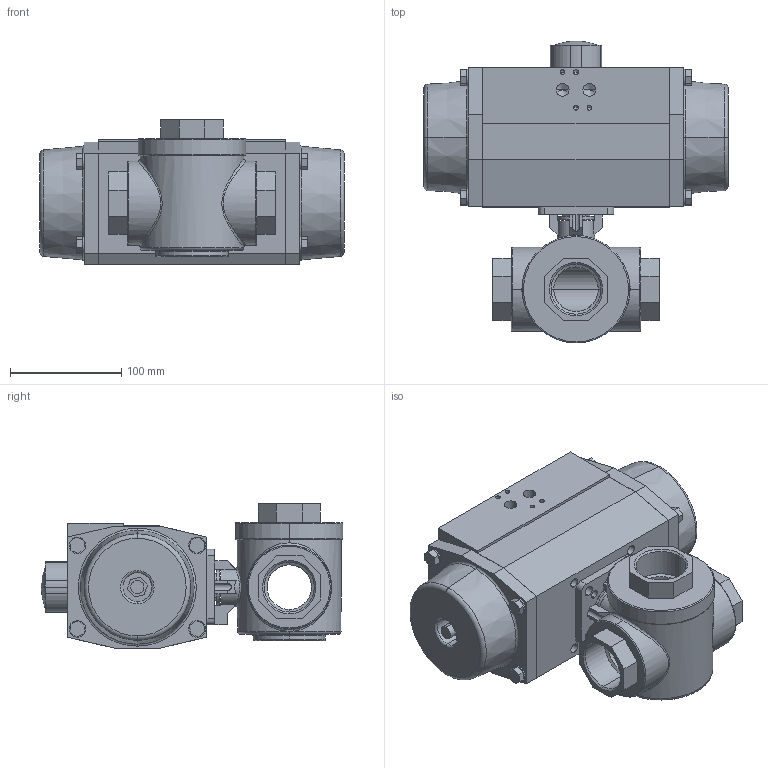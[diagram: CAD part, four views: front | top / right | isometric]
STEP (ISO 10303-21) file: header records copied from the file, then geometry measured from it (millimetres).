
FILE_DESCRIPTION (( 'STEP AP214' ), '1' );
FILE_NAME ('S57D DN40 + AP4.STEP', '2020-01-09T13:45:16', ( '' ), ( '' ), 'SwSTEP 2.0', 'SolidWorks 2018', '' );
FILE_SCHEMA (( 'AUTOMOTIVE_DESIGN' ));
Length unit declared in the file: millimetre
Products named in the file (3): AP4_Default<As Machined>; S57D DN40 + AP4; S57D DN40-G1 1_2 FB
Assembly tree (2 placements, depth 2):
  S57D DN40 + AP4
    S57D DN40-G1 1_2 FB
    AP4_Default<As Machined>
Bounding box: 273.5 x 271.26 x 130 mm (x, y, z)
Volume: 3937883 mm3; surface area: 271749.3 mm2
Topology: 13 solids, 13 shells, 496 faces, 1222 edges, 753 vertices
Faces by surface type: plane 275, cylinder 135, cone 52, torus 26, bspline 6, sphere 2
Entity records: 18969 total; most frequent: CARTESIAN_POINT 4759, DIRECTION 2526, ORIENTED_EDGE 2372, EDGE_CURVE 1186, AXIS2_PLACEMENT_3D 890, VERTEX_POINT 753, VECTOR 746, LINE 746
